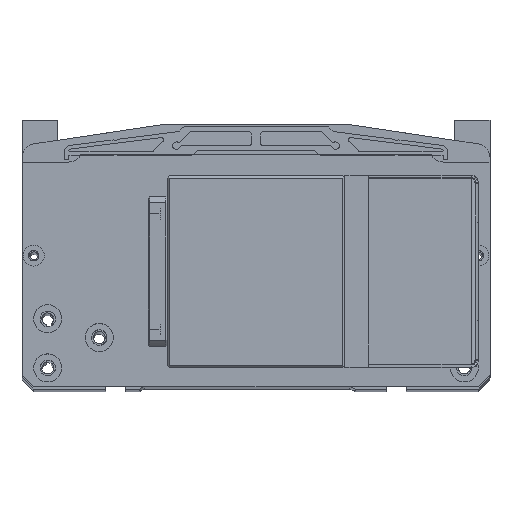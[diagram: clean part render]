
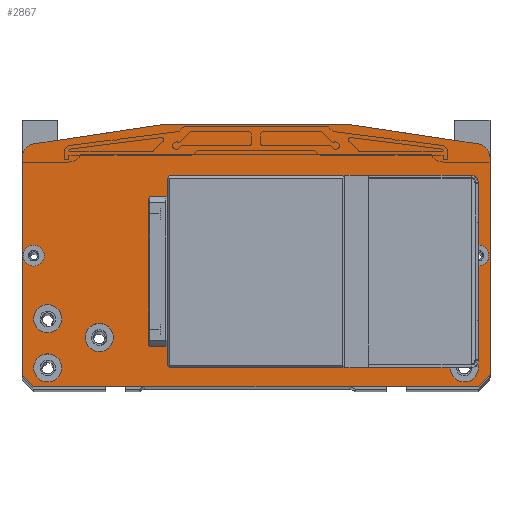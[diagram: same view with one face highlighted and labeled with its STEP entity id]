
A CAD part, top view. The second image highlights one B-rep face of the part: STEP entity #2867.
In plain terms, the highlighted planar face has unit normal (0, 0, 1).
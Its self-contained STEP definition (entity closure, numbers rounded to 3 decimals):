
#572=FACE_BOUND('',#5177,.T.);
#573=FACE_BOUND('',#5178,.T.);
#574=FACE_BOUND('',#5179,.T.);
#575=FACE_BOUND('',#5180,.T.);
#576=FACE_BOUND('',#5181,.T.);
#577=FACE_BOUND('',#5182,.T.);
#578=FACE_BOUND('',#5183,.T.);
#579=FACE_BOUND('',#5184,.T.);
#580=FACE_BOUND('',#5185,.T.);
#581=FACE_BOUND('',#5186,.T.);
#582=FACE_BOUND('',#5187,.T.);
#583=FACE_BOUND('',#5188,.T.);
#584=FACE_BOUND('',#5189,.T.);
#1207=PLANE('',#18834);
#1888=CIRCLE('',#18716,1.65);
#1903=CIRCLE('',#18745,1.65);
#1908=CIRCLE('',#18759,6.);
#1915=CIRCLE('',#18773,6.);
#1916=CIRCLE('',#18776,4.5);
#1920=CIRCLE('',#18783,4.5);
#1924=CIRCLE('',#18790,6.);
#1928=CIRCLE('',#18797,6.);
#1932=CIRCLE('',#18804,6.);
#1936=CIRCLE('',#18811,6.);
#1940=CIRCLE('',#18818,6.);
#1944=CIRCLE('',#18825,6.);
#2867=ADVANCED_FACE('',(#572,#573,#574,#575,#576,#577,#578,#579,#580,#581,
#582,#583,#584),#1207,.F.);
#5177=EDGE_LOOP('',(#11650,#11651,#11652,#11653));
#5178=EDGE_LOOP('',(#11654,#11655,#11656,#11657));
#5179=EDGE_LOOP('',(#11658));
#5180=EDGE_LOOP('',(#11659));
#5181=EDGE_LOOP('',(#11660,#11661,#11662,#11663,#11664,#11665,#11666,#11667,
#11668,#11669));
#5182=EDGE_LOOP('',(#11670));
#5183=EDGE_LOOP('',(#11671));
#5184=EDGE_LOOP('',(#11672));
#5185=EDGE_LOOP('',(#11673));
#5186=EDGE_LOOP('',(#11674));
#5187=EDGE_LOOP('',(#11675));
#5188=EDGE_LOOP('',(#11676));
#5189=EDGE_LOOP('',(#11677));
#5858=LINE('',#25807,#7244);
#6053=LINE('',#26763,#7439);
#6073=LINE('',#26808,#7459);
#6678=LINE('',#30824,#8064);
#6682=LINE('',#30832,#8068);
#6685=LINE('',#30838,#8071);
#6705=LINE('',#30874,#8091);
#6725=LINE('',#31046,#8111);
#6727=LINE('',#31049,#8113);
#6733=LINE('',#31062,#8119);
#6736=LINE('',#31068,#8122);
#6749=LINE('',#31104,#8135);
#6751=LINE('',#31189,#8137);
#6752=LINE('',#31192,#8138);
#6753=LINE('',#31194,#8139);
#6754=LINE('',#31196,#8140);
#7244=VECTOR('',#19999,1.);
#7439=VECTOR('',#20440,1.);
#7459=VECTOR('',#20490,1.);
#8064=VECTOR('',#22543,1.);
#8068=VECTOR('',#22549,1.);
#8071=VECTOR('',#22554,1.);
#8091=VECTOR('',#22586,1.);
#8111=VECTOR('',#22802,1.);
#8113=VECTOR('',#22806,1.);
#8119=VECTOR('',#22814,1.);
#8122=VECTOR('',#22819,1.);
#8135=VECTOR('',#22866,1.);
#8137=VECTOR('',#22986,1.);
#8138=VECTOR('',#22987,1.);
#8139=VECTOR('',#22988,1.);
#8140=VECTOR('',#22989,1.);
#11650=ORIENTED_EDGE('',*,*,#16813,.F.);
#11651=ORIENTED_EDGE('',*,*,#16814,.F.);
#11652=ORIENTED_EDGE('',*,*,#16815,.T.);
#11653=ORIENTED_EDGE('',*,*,#16816,.T.);
#11654=ORIENTED_EDGE('',*,*,#16656,.T.);
#11655=ORIENTED_EDGE('',*,*,#16659,.T.);
#11656=ORIENTED_EDGE('',*,*,#16679,.T.);
#11657=ORIENTED_EDGE('',*,*,#16652,.T.);
#11658=ORIENTED_EDGE('',*,*,#16714,.T.);
#11659=ORIENTED_EDGE('',*,*,#16742,.T.);
#11660=ORIENTED_EDGE('',*,*,#16747,.F.);
#11661=ORIENTED_EDGE('',*,*,#15589,.T.);
#11662=ORIENTED_EDGE('',*,*,#16779,.F.);
#11663=ORIENTED_EDGE('',*,*,#15613,.T.);
#11664=ORIENTED_EDGE('',*,*,#16778,.F.);
#11665=ORIENTED_EDGE('',*,*,#16749,.F.);
#11666=ORIENTED_EDGE('',*,*,#16755,.T.);
#11667=ORIENTED_EDGE('',*,*,#16758,.F.);
#11668=ORIENTED_EDGE('',*,*,#16759,.F.);
#11669=ORIENTED_EDGE('',*,*,#15322,.T.);
#11670=ORIENTED_EDGE('',*,*,#16809,.T.);
#11671=ORIENTED_EDGE('',*,*,#16805,.T.);
#11672=ORIENTED_EDGE('',*,*,#16801,.T.);
#11673=ORIENTED_EDGE('',*,*,#16797,.T.);
#11674=ORIENTED_EDGE('',*,*,#16793,.T.);
#11675=ORIENTED_EDGE('',*,*,#16789,.T.);
#11676=ORIENTED_EDGE('',*,*,#16785,.T.);
#11677=ORIENTED_EDGE('',*,*,#16781,.T.);
#13588=VERTEX_POINT('',#25806);
#13589=VERTEX_POINT('',#25808);
#13758=VERTEX_POINT('',#26762);
#13759=VERTEX_POINT('',#26764);
#13768=VERTEX_POINT('',#26807);
#13769=VERTEX_POINT('',#26809);
#14451=VERTEX_POINT('',#30814);
#14455=VERTEX_POINT('',#30823);
#14458=VERTEX_POINT('',#30831);
#14460=VERTEX_POINT('',#30837);
#14501=VERTEX_POINT('',#30971);
#14518=VERTEX_POINT('',#31030);
#14525=VERTEX_POINT('',#31050);
#14526=VERTEX_POINT('',#31051);
#14530=VERTEX_POINT('',#31061);
#14532=VERTEX_POINT('',#31067);
#14539=VERTEX_POINT('',#31108);
#14542=VERTEX_POINT('',#31118);
#14545=VERTEX_POINT('',#31128);
#14548=VERTEX_POINT('',#31138);
#14551=VERTEX_POINT('',#31148);
#14554=VERTEX_POINT('',#31158);
#14557=VERTEX_POINT('',#31168);
#14560=VERTEX_POINT('',#31178);
#14563=VERTEX_POINT('',#31190);
#14564=VERTEX_POINT('',#31191);
#14565=VERTEX_POINT('',#31193);
#14566=VERTEX_POINT('',#31195);
#15322=EDGE_CURVE('',#13589,#13588,#5858,.T.);
#15589=EDGE_CURVE('',#13759,#13758,#6053,.T.);
#15613=EDGE_CURVE('',#13769,#13768,#6073,.T.);
#16652=EDGE_CURVE('',#14451,#14455,#6678,.T.);
#16656=EDGE_CURVE('',#14455,#14458,#6682,.T.);
#16659=EDGE_CURVE('',#14458,#14460,#6685,.T.);
#16679=EDGE_CURVE('',#14460,#14451,#6705,.T.);
#16714=EDGE_CURVE('',#14501,#14501,#1888,.T.);
#16742=EDGE_CURVE('',#14518,#14518,#1903,.T.);
#16747=EDGE_CURVE('',#13759,#13588,#6725,.T.);
#16749=EDGE_CURVE('',#14525,#14526,#6727,.T.);
#16755=EDGE_CURVE('',#14525,#14530,#6733,.T.);
#16758=EDGE_CURVE('',#14532,#14530,#6736,.T.);
#16759=EDGE_CURVE('',#13589,#14532,#1908,.T.);
#16778=EDGE_CURVE('',#14526,#13768,#1915,.T.);
#16779=EDGE_CURVE('',#13769,#13758,#6749,.T.);
#16781=EDGE_CURVE('',#14539,#14539,#1916,.T.);
#16785=EDGE_CURVE('',#14542,#14542,#1920,.T.);
#16789=EDGE_CURVE('',#14545,#14545,#1924,.T.);
#16793=EDGE_CURVE('',#14548,#14548,#1928,.T.);
#16797=EDGE_CURVE('',#14551,#14551,#1932,.T.);
#16801=EDGE_CURVE('',#14554,#14554,#1936,.T.);
#16805=EDGE_CURVE('',#14557,#14557,#1940,.T.);
#16809=EDGE_CURVE('',#14560,#14560,#1944,.T.);
#16813=EDGE_CURVE('',#14563,#14564,#6751,.T.);
#16814=EDGE_CURVE('',#14565,#14563,#6752,.T.);
#16815=EDGE_CURVE('',#14565,#14566,#6753,.T.);
#16816=EDGE_CURVE('',#14566,#14564,#6754,.T.);
#18716=AXIS2_PLACEMENT_3D('',#30970,#22711,#22712);
#18745=AXIS2_PLACEMENT_3D('',#31029,#22782,#22783);
#18759=AXIS2_PLACEMENT_3D('',#31070,#22822,#22823);
#18773=AXIS2_PLACEMENT_3D('',#31102,#22862,#22863);
#18776=AXIS2_PLACEMENT_3D('',#31107,#22870,#22871);
#18783=AXIS2_PLACEMENT_3D('',#31117,#22884,#22885);
#18790=AXIS2_PLACEMENT_3D('',#31127,#22898,#22899);
#18797=AXIS2_PLACEMENT_3D('',#31137,#22912,#22913);
#18804=AXIS2_PLACEMENT_3D('',#31147,#22926,#22927);
#18811=AXIS2_PLACEMENT_3D('',#31157,#22940,#22941);
#18818=AXIS2_PLACEMENT_3D('',#31167,#22954,#22955);
#18825=AXIS2_PLACEMENT_3D('',#31177,#22968,#22969);
#18834=AXIS2_PLACEMENT_3D('',#31197,#22990,#22991);
#19999=DIRECTION('',(0.,-1.,0.));
#20440=DIRECTION('',(1.,0.,0.));
#20490=DIRECTION('',(0.,1.,0.));
#22543=DIRECTION('',(0.,1.,0.));
#22549=DIRECTION('',(1.,0.,0.));
#22554=DIRECTION('',(0.,-1.,0.));
#22586=DIRECTION('',(-1.,0.,0.));
#22711=DIRECTION('',(0.,0.,-1.));
#22712=DIRECTION('',(1.,0.,0.));
#22782=DIRECTION('',(0.,0.,-1.));
#22783=DIRECTION('',(1.,0.,0.));
#22802=DIRECTION('',(-0.707,0.707,0.));
#22806=DIRECTION('',(0.989,-0.148,0.));
#22814=DIRECTION('',(-1.,0.,0.));
#22819=DIRECTION('',(0.989,0.148,0.));
#22822=DIRECTION('',(0.,0.,-1.));
#22823=DIRECTION('',(-1.,0.,0.));
#22862=DIRECTION('',(0.,0.,-1.));
#22863=DIRECTION('',(0.148,0.989,0.));
#22866=DIRECTION('',(-0.707,-0.707,0.));
#22870=DIRECTION('',(0.,0.,-1.));
#22871=DIRECTION('',(1.,0.,0.));
#22884=DIRECTION('',(0.,0.,-1.));
#22885=DIRECTION('',(1.,0.,0.));
#22898=DIRECTION('',(0.,0.,-1.));
#22899=DIRECTION('',(1.,0.,0.));
#22912=DIRECTION('',(0.,0.,-1.));
#22913=DIRECTION('',(1.,0.,0.));
#22926=DIRECTION('',(0.,0.,-1.));
#22927=DIRECTION('',(1.,0.,0.));
#22940=DIRECTION('',(0.,0.,-1.));
#22941=DIRECTION('',(1.,0.,0.));
#22954=DIRECTION('',(0.,0.,-1.));
#22955=DIRECTION('',(1.,0.,0.));
#22968=DIRECTION('',(0.,0.,-1.));
#22969=DIRECTION('',(1.,0.,0.));
#22986=DIRECTION('',(1.,0.,0.));
#22987=DIRECTION('',(0.,-1.,0.));
#22988=DIRECTION('',(1.,0.,0.));
#22989=DIRECTION('',(0.,-1.,0.));
#22990=DIRECTION('',(0.,0.,-1.));
#22991=DIRECTION('',(-1.,0.,0.));
#25806=CARTESIAN_POINT('',(-100.,7.,463.));
#25807=CARTESIAN_POINT('',(-100.,99.833,463.));
#25808=CARTESIAN_POINT('',(-100.,99.833,463.));
#26762=CARTESIAN_POINT('',(95.,2.,463.));
#26763=CARTESIAN_POINT('',(67.5,2.,463.));
#26764=CARTESIAN_POINT('',(-95.,2.,463.));
#26807=CARTESIAN_POINT('',(100.,99.833,463.));
#26808=CARTESIAN_POINT('',(100.,7.,463.));
#26809=CARTESIAN_POINT('',(100.,7.,463.));
#30814=CARTESIAN_POINT('',(-37.,11.,463.));
#30823=CARTESIAN_POINT('',(-37.,91.,463.));
#30824=CARTESIAN_POINT('',(-37.,11.,463.));
#30831=CARTESIAN_POINT('',(37.,91.,463.));
#30832=CARTESIAN_POINT('',(-37.,91.,463.));
#30837=CARTESIAN_POINT('',(37.,11.,463.));
#30838=CARTESIAN_POINT('',(37.,91.,463.));
#30874=CARTESIAN_POINT('',(37.,11.,463.));
#30970=CARTESIAN_POINT('',(42.,69.,463.));
#30971=CARTESIAN_POINT('',(43.65,69.,463.));
#31029=CARTESIAN_POINT('',(42.,33.,463.));
#31030=CARTESIAN_POINT('',(43.65,33.,463.));
#31046=CARTESIAN_POINT('',(-95.,2.,463.));
#31049=CARTESIAN_POINT('',(40.,114.,463.));
#31050=CARTESIAN_POINT('',(40.,114.,463.));
#31051=CARTESIAN_POINT('',(94.89,105.766,463.));
#31061=CARTESIAN_POINT('',(-40.,114.,463.));
#31062=CARTESIAN_POINT('',(40.,114.,463.));
#31067=CARTESIAN_POINT('',(-94.89,105.766,463.));
#31068=CARTESIAN_POINT('',(-94.89,105.766,463.));
#31070=CARTESIAN_POINT('',(-94.,99.833,463.));
#31102=CARTESIAN_POINT('',(94.,99.833,463.));
#31104=CARTESIAN_POINT('',(100.,7.,463.));
#31107=CARTESIAN_POINT('',(-95.,58.,463.));
#31108=CARTESIAN_POINT('',(-90.5,58.,463.));
#31117=CARTESIAN_POINT('',(95.,58.,463.));
#31118=CARTESIAN_POINT('',(99.5,58.,463.));
#31127=CARTESIAN_POINT('',(-67.,23.,463.));
#31128=CARTESIAN_POINT('',(-61.,23.,463.));
#31137=CARTESIAN_POINT('',(67.,23.,463.));
#31138=CARTESIAN_POINT('',(73.,23.,463.));
#31147=CARTESIAN_POINT('',(-89.,31.,463.));
#31148=CARTESIAN_POINT('',(-83.,31.,463.));
#31157=CARTESIAN_POINT('',(89.,31.,463.));
#31158=CARTESIAN_POINT('',(95.,31.,463.));
#31167=CARTESIAN_POINT('',(-89.,10.,463.));
#31168=CARTESIAN_POINT('',(-83.,10.,463.));
#31177=CARTESIAN_POINT('',(89.,10.,463.));
#31178=CARTESIAN_POINT('',(95.,10.,463.));
#31189=CARTESIAN_POINT('',(-45.5,21.534,463.));
#31190=CARTESIAN_POINT('',(-45.5,21.534,463.));
#31191=CARTESIAN_POINT('',(-38.5,21.534,463.));
#31192=CARTESIAN_POINT('',(-45.5,80.466,463.));
#31193=CARTESIAN_POINT('',(-45.5,80.466,463.));
#31194=CARTESIAN_POINT('',(-45.5,80.466,463.));
#31195=CARTESIAN_POINT('',(-38.5,80.466,463.));
#31196=CARTESIAN_POINT('',(-38.5,80.466,463.));
#31197=CARTESIAN_POINT('',(0.,2.,463.));
